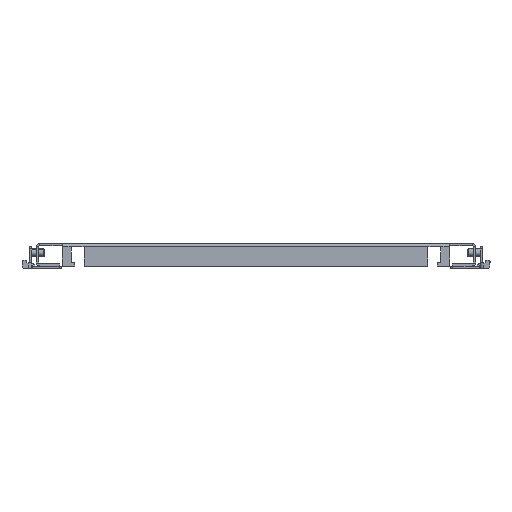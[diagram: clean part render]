
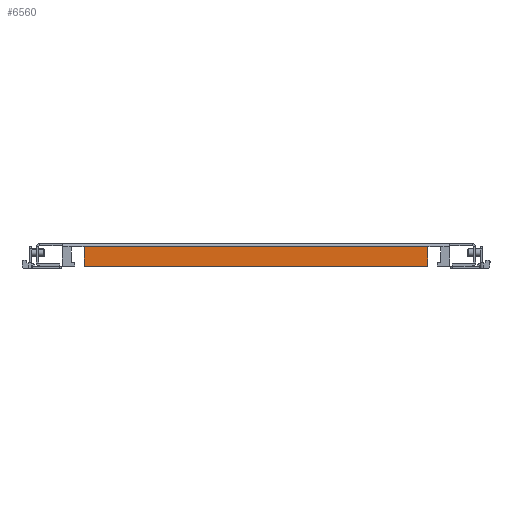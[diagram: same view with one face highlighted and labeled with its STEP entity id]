
A CAD part, front view. The second image highlights one B-rep face of the part: STEP entity #6560.
In plain terms, the highlighted planar face has unit normal (0, -1, 0).
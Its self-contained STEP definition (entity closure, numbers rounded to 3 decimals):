
#89 = CARTESIAN_POINT ( 'NONE',  ( 28.5, 0., -1. ) ) ;
#239 = DIRECTION ( 'NONE',  ( 0., 0., -1. ) ) ;
#423 = CARTESIAN_POINT ( 'NONE',  ( 52.6, 0., -1. ) ) ;
#757 = VERTEX_POINT ( 'NONE', #8571 ) ;
#1102 = VERTEX_POINT ( 'NONE', #9067 ) ;
#1238 = ORIENTED_EDGE ( 'NONE', *, *, #5444, .T. ) ;
#1304 = EDGE_LOOP ( 'NONE', ( #10849, #6304, #10306, #1238 ) ) ;
#2441 = EDGE_CURVE ( 'NONE', #7343, #1102, #6253, .T. ) ;
#3859 = VECTOR ( 'NONE', #4269, 1000. ) ;
#4011 = FACE_OUTER_BOUND ( 'NONE', #1304, .T. ) ;
#4044 = CARTESIAN_POINT ( 'NONE',  ( 432.4, 0., -22.5 ) ) ;
#4087 = VECTOR ( 'NONE', #7870, 1000. ) ;
#4185 = EDGE_CURVE ( 'NONE', #757, #10246, #7067, .T. ) ;
#4269 = DIRECTION ( 'NONE',  ( 0., 0., 1. ) ) ;
#4654 = VECTOR ( 'NONE', #4955, 1000. ) ;
#4719 = CARTESIAN_POINT ( 'NONE',  ( 28.5, 0., 0. ) ) ;
#4811 = CARTESIAN_POINT ( 'NONE',  ( 52.6, 0., -22.5 ) ) ;
#4955 = DIRECTION ( 'NONE',  ( 0., 0., -1. ) ) ;
#5444 = EDGE_CURVE ( 'NONE', #1102, #757, #6128, .T. ) ;
#5455 = AXIS2_PLACEMENT_3D ( 'NONE', #4719, #5640, #239 ) ;
#5640 = DIRECTION ( 'NONE',  ( 0., -1., 0. ) ) ;
#6128 = LINE ( 'NONE', #89, #8252 ) ;
#6253 = LINE ( 'NONE', #8764, #3859 ) ;
#6304 = ORIENTED_EDGE ( 'NONE', *, *, #9174, .F. ) ;
#6485 = LINE ( 'NONE', #10567, #4087 ) ;
#6560 = ADVANCED_FACE ( 'NONE', ( #4011 ), #11058, .T. ) ;
#7067 = LINE ( 'NONE', #423, #4654 ) ;
#7343 = VERTEX_POINT ( 'NONE', #4044 ) ;
#7870 = DIRECTION ( 'NONE',  ( -1., 0., 0. ) ) ;
#8169 = DIRECTION ( 'NONE',  ( -1., 0., 0. ) ) ;
#8252 = VECTOR ( 'NONE', #8169, 1000. ) ;
#8571 = CARTESIAN_POINT ( 'NONE',  ( 52.6, 0., -1. ) ) ;
#8764 = CARTESIAN_POINT ( 'NONE',  ( 432.4, 0., -1. ) ) ;
#9067 = CARTESIAN_POINT ( 'NONE',  ( 432.4, 0., -1. ) ) ;
#9174 = EDGE_CURVE ( 'NONE', #7343, #10246, #6485, .T. ) ;
#10246 = VERTEX_POINT ( 'NONE', #4811 ) ;
#10306 = ORIENTED_EDGE ( 'NONE', *, *, #2441, .T. ) ;
#10567 = CARTESIAN_POINT ( 'NONE',  ( 28.5, 0., -22.5 ) ) ;
#10849 = ORIENTED_EDGE ( 'NONE', *, *, #4185, .T. ) ;
#11058 = PLANE ( 'NONE',  #5455 ) ;
